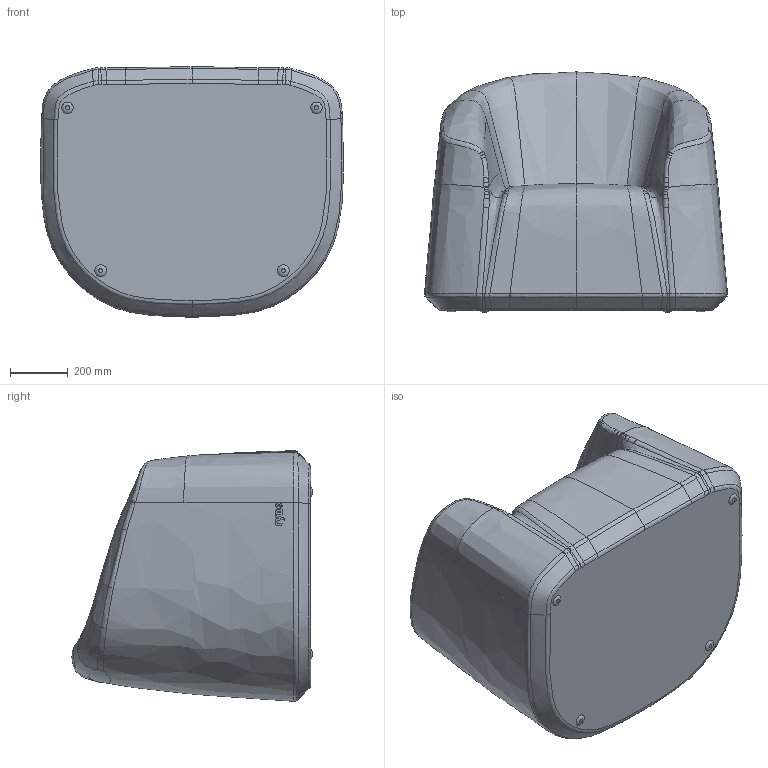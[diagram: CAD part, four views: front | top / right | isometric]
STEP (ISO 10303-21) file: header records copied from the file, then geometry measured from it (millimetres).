
FILE_DESCRIPTION(/* description */ (''),/* implementation_level */ '2;1');
FILE_NAME(/* name */ 'Ryno Flex Modular - Armchair - STEP (Simplified).stp',/* time_stamp */ '2024-10-28T09:27:07Z',/* author */ ('Brian.Thangei'),/* organization */ (''),/* preprocessor_version */ 'ST-DEVELOPER v20',/* originating_system */ 'Autodesk Inventor 2024',/* authorisation */ '');
FILE_SCHEMA (('AUTOMOTIVE_DESIGN { 1 0 10303 214 3 1 1 }'));
Products named in the file (1): Ryno Flex Modular - Armchair (Simplified)
Bounding box: 1051.39 x 833.37 x 869.52 mm (x, y, z)
Volume: 441403764.8 mm3; surface area: 3761223.8 mm2
Topology: 1 solids, 1 shells, 206 faces, 527 edges, 332 vertices
Faces by surface type: bspline 182, plane 24
Entity records: 41433 total; most frequent: CARTESIAN_POINT 37661, ORIENTED_EDGE 1054, EDGE_CURVE 527, B_SPLINE_CURVE_WITH_KNOTS 455, VERTEX_POINT 332, EDGE_LOOP 215, STYLED_ITEM 207, FACE_OUTER_BOUND 206
